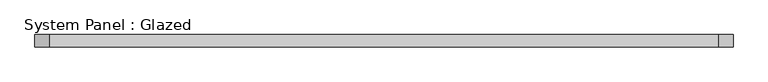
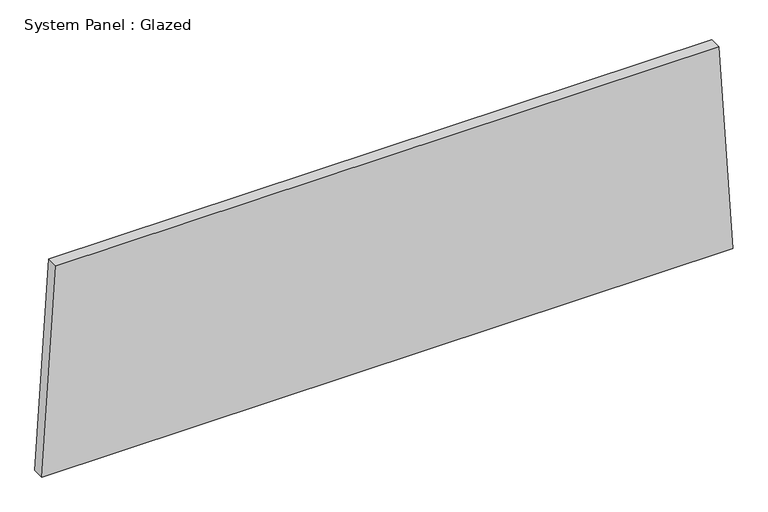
"""IFC4 building model written with IfcOpenShell, lengths in millimetres: plate geometry, System Panel : Glazed."""

from ifc_helpers import new_model, si_unit, frame, origin, place, context, project, spatial, polyline, outline, extrude, source, transform, mapped, element, save


def system_panel_glazed_ea3045b6(model_context):
    return source(origin(), model_context, "Body", "SweptSolid", [
        extrude(outline(polyline([(0.0, -723.3206314), (0.0, 723.3206314), (457.5813622, 693.8555347), (457.5813622, -693.8555347), (0.0, -723.3206314)])), frame((0.0, 19.05, 0.0), z_axis=(0.0, 1.0, 0.0), x_axis=(0.0, 0.0, 1.0)), (0.0, 0.0, 1.0), 25.4),
    ])


if __name__ == "__main__":
    model = new_model("IFC4")
    model_context = context("Model", 3, world=origin())
    ifc_project = project(units=[si_unit("LENGTHUNIT", "METRE", prefix="MILLI")], contexts=[model_context])
    site = spatial("IfcSite", under=ifc_project)
    building = spatial("IfcBuilding", under=site)
    placement = place(None, origin())
    system_panel_glazed_shape = system_panel_glazed_ea3045b6(model_context)
    element("IfcPlate", 1, ObjectType="System Panel : Glazed", at=placement, inside=building, context=model_context, shape_type="MappedRepresentation", body=[
        mapped(system_panel_glazed_shape, transform((0.0, 0.0, 0.0), x_axis=(1.0, 0.0, 0.0), y_axis=(0.0, 1.0, 0.0), z_axis=(0.0, 0.0, 1.0))),
    ])
    save(model, "model.ifc")
